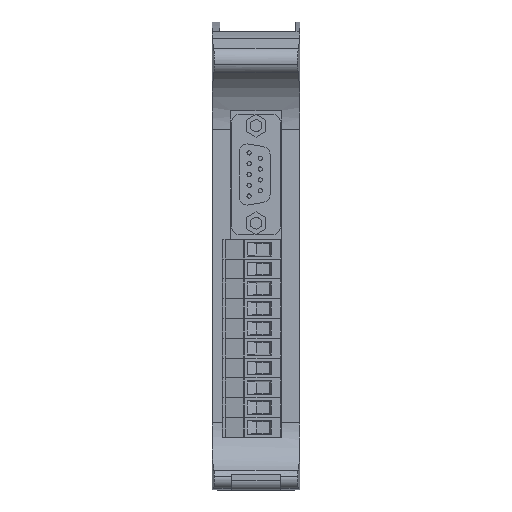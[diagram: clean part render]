
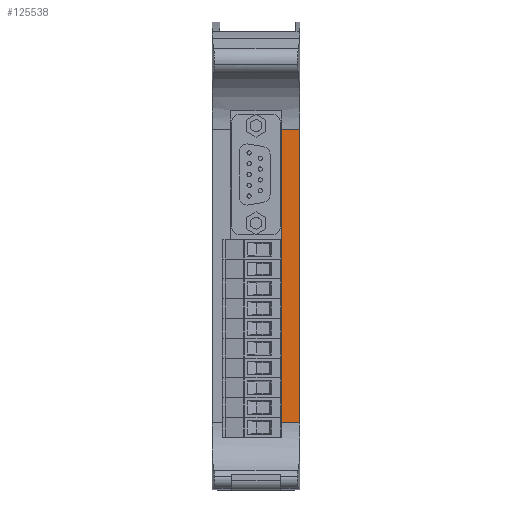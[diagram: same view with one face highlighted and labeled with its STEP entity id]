
A CAD part, front view. The second image highlights one B-rep face of the part: STEP entity #125538.
In plain terms, the highlighted planar face has unit normal (0, -1, 0).
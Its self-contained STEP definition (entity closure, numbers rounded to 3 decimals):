
#3787 = ORIENTED_EDGE ( 'NONE', *, *, #148804, .F. ) ;
#4324 = DIRECTION ( 'NONE',  ( 0., 1., 0. ) ) ;
#11297 = CARTESIAN_POINT ( 'NONE',  ( 17.695, -38.8, 88.373 ) ) ;
#17862 = CARTESIAN_POINT ( 'NONE',  ( 22.5, -38.8, 88.373 ) ) ;
#23054 = LINE ( 'NONE', #130686, #98081 ) ;
#38956 = VERTEX_POINT ( 'NONE', #56387 ) ;
#46255 = DIRECTION ( 'NONE',  ( -1., 0., 0. ) ) ;
#50300 = EDGE_LOOP ( 'NONE', ( #66189, #91755, #3787, #143254 ) ) ;
#56387 = CARTESIAN_POINT ( 'NONE',  ( 17.695, -38.8, 13.218 ) ) ;
#56891 = AXIS2_PLACEMENT_3D ( 'NONE', #17862, #4324, #102908 ) ;
#60588 = VERTEX_POINT ( 'NONE', #163023 ) ;
#65606 = CARTESIAN_POINT ( 'NONE',  ( 17.695, -38.8, 88.373 ) ) ;
#66019 = DIRECTION ( 'NONE',  ( 0., 0., -1. ) ) ;
#66189 = ORIENTED_EDGE ( 'NONE', *, *, #98058, .T. ) ;
#68284 = VECTOR ( 'NONE', #105099, 1000. ) ;
#69675 = EDGE_CURVE ( 'NONE', #110768, #38956, #143261, .T. ) ;
#84042 = LINE ( 'NONE', #136223, #163479 ) ;
#88673 = PLANE ( 'NONE',  #56891 ) ;
#91755 = ORIENTED_EDGE ( 'NONE', *, *, #69675, .T. ) ;
#98058 = EDGE_CURVE ( 'NONE', #149001, #110768, #23054, .T. ) ;
#98081 = VECTOR ( 'NONE', #46255, 1000. ) ;
#102908 = DIRECTION ( 'NONE',  ( 0., 0., 1. ) ) ;
#105099 = DIRECTION ( 'NONE',  ( -1., 0., 0. ) ) ;
#109969 = CARTESIAN_POINT ( 'NONE',  ( 22.494, -38.8, 88.373 ) ) ;
#110768 = VERTEX_POINT ( 'NONE', #11297 ) ;
#125538 = ADVANCED_FACE ( 'NONE', ( #127022 ), #88673, .F. ) ;
#127022 = FACE_OUTER_BOUND ( 'NONE', #50300, .T. ) ;
#130686 = CARTESIAN_POINT ( 'NONE',  ( 22.5, -38.8, 88.373 ) ) ;
#133377 = CARTESIAN_POINT ( 'NONE',  ( 22.5, -38.8, 13.218 ) ) ;
#136223 = CARTESIAN_POINT ( 'NONE',  ( 22.494, -38.8, 115.998 ) ) ;
#139334 = EDGE_CURVE ( 'NONE', #149001, #60588, #84042, .T. ) ;
#143254 = ORIENTED_EDGE ( 'NONE', *, *, #139334, .F. ) ;
#143261 = LINE ( 'NONE', #65606, #180746 ) ;
#148804 = EDGE_CURVE ( 'NONE', #60588, #38956, #176368, .T. ) ;
#149001 = VERTEX_POINT ( 'NONE', #109969 ) ;
#150098 = DIRECTION ( 'NONE',  ( 0., 0., -1. ) ) ;
#163023 = CARTESIAN_POINT ( 'NONE',  ( 22.494, -38.8, 13.218 ) ) ;
#163479 = VECTOR ( 'NONE', #66019, 1000. ) ;
#176368 = LINE ( 'NONE', #133377, #68284 ) ;
#180746 = VECTOR ( 'NONE', #150098, 1000. ) ;
